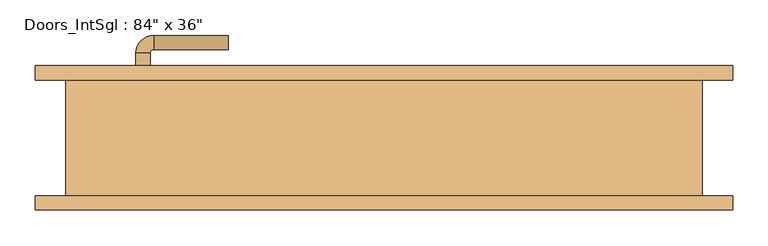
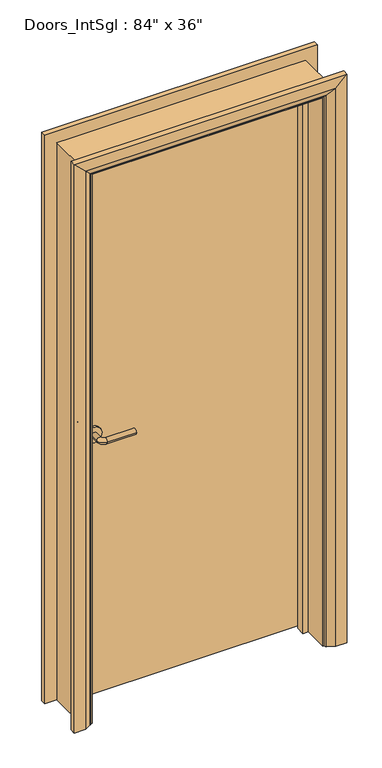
"""IFC4 building model written with IfcOpenShell, lengths in millimetres: door geometry."""

from ifc_helpers import new_model, si_unit, point, frame, frame_2d, origin, place, context, project, spatial, polyline, circle_curve, ellipse_curve, trimmed, segment, composite_curve, outline, extrude, faceted_brep, source, transform, mapped, element, save
from ifc_brep_helpers import plane_surface, cylinder_surface, revolved_surface, advanced_brep


def door_8a9fed3c(model_context):
    return source(origin(), model_context, "Body", "SolidModel", [
        advanced_brep(
        [(-350.2, 36.0, 1000.0), (-330.2, 36.0, 1000.0), (-330.2, 6.0, 1000.0), (-350.2, 6.0, 1000.0), (-325.2, 1.0, 1000.0), (-325.2, -19.0, 1000.0), (-220.2, -19.0, 1000.0), (-220.2, 1.0, 1000.0)],
        [
            (0, 1, circle_curve(frame((-340.2, 36.0, 1000.0), z_axis=(0.0, 1.0, 0.0), x_axis=(1.0, 0.0, 0.0)), 10.0)),
            (1, 0, circle_curve(frame((-340.2, 36.0, 1000.0), z_axis=(0.0, 1.0, 0.0), x_axis=(1.0, 0.0, 0.0)), 10.0)),
            (1, 2),
            (2, 3, circle_curve(frame((-340.2, 6.0, 1000.0), z_axis=(0.0, 1.0, 0.0), x_axis=(1.0, 0.0, 0.0)), 10.0)),
            (3, 0),
            (3, 2, circle_curve(frame((-340.2, 6.0, 1000.0), z_axis=(0.0, 1.0, 0.0), x_axis=(1.0, 0.0, 0.0)), 10.0)),
            (4, 5, circle_curve(frame((-325.2, -9.0, 1000.0), z_axis=(-1.0, 0.0, 0.0), x_axis=(0.0, 1.0, 0.0)), 10.0)),
            (5, 3, circle_curve(frame((-325.2, 6.0, 1000.0), z_axis=(0.0, 0.0, -1.0), x_axis=(-1.0, 0.0, 0.0)), 25.0)),
            (2, 4, circle_curve(frame((-325.2, 6.0, 1000.0), z_axis=(0.0, 0.0, 1.0), x_axis=(-1.0, 0.0, 0.0)), 5.0)),
            (5, 4, circle_curve(frame((-325.2, -9.0, 1000.0), z_axis=(-1.0, 0.0, 0.0), x_axis=(0.0, 1.0, 0.0)), 10.0)),
            (6, 7, circle_curve(frame((-220.2, -9.0, 1000.0), z_axis=(1.0, 0.0, 0.0), x_axis=(0.0, 1.0, 0.0)), 10.0)),
            (7, 6, circle_curve(frame((-220.2, -9.0, 1000.0), z_axis=(1.0, 0.0, 0.0), x_axis=(0.0, 1.0, 0.0)), 10.0)),
            (4, 7),
            (6, 5),
        ],
        [
            plane_surface(frame((-340.2, 36.0, 1000.0), z_axis=(0.0, 1.0, 0.0), x_axis=(0.0, 0.0, 1.0))),
            cylinder_surface(frame((-340.2, 36.0, 1000.0), z_axis=(0.0, 1.0, 0.0), x_axis=(1.0, 0.0, 0.0)), 10.0),
            revolved_surface(trimmed(ellipse_curve(frame((-340.2, 6.0, 1000.0), z_axis=(0.0, -1.0, 0.0), x_axis=(1.0, 0.0, 0.0)), 10.0, 10.0), [point((-350.2, 6.0, 1000.0))], [point((-330.2, 6.0, 1000.0))], True, "CARTESIAN"), (-325.2, 6.0, 1000.0), (0.0, 0.0, -1.0)),
            revolved_surface(trimmed(ellipse_curve(frame((-340.2, 6.0, 1000.0), z_axis=(0.0, -1.0, 0.0), x_axis=(1.0, 0.0, 0.0)), 10.0, 10.0), [point((-330.2, 6.0, 1000.0))], [point((-350.2, 6.0, 1000.0))], True, "CARTESIAN"), (-325.2, 6.0, 1000.0), (0.0, 0.0, -1.0)),
            plane_surface(frame((-220.2, -9.0, 1000.0), z_axis=(1.0, 0.0, 0.0), x_axis=(0.0, 0.0, 1.0))),
            cylinder_surface(frame((-325.2, -9.0, 1000.0), z_axis=(-1.0, 0.0, 0.0), x_axis=(0.0, 1.0, 0.0)), 10.0),
        ],
        [
            (0, [[1, 2]]),
            (1, [[3, 4, 5, -2]]),
            (1, [[-5, 6, -3, -1]]),
            (2, [[7, 8, -4, 9]]),
            (3, [[10, -9, -6, -8]]),
            (4, [[11, 12]]),
            (5, [[13, -11, 14, -7]]),
            (5, [[-14, -12, -13, -10]]),
        ],
    ),
        extrude(outline(composite_curve([segment(trimmed(circle_curve(frame_2d((1000.0, -342.7)), 30.0), [point((1000.0, -372.7))], [point((1000.0, -312.7))], False, "CARTESIAN"), True, "CONTINUOUS"), segment(trimmed(circle_curve(frame_2d((1000.0, -342.7)), 30.0), [point((1000.0, -312.7))], [point((1000.0, -372.7))], False, "CARTESIAN"), True, "CONTINUOUS")], self_intersect=False)), frame((0.0, 36.0, 0.0), z_axis=(0.0, 1.0, 0.0), x_axis=(0.0, 0.0, 1.0)), (0.0, 0.0, 1.0), 8.0),
        advanced_brep(
        [(-350.2, 90.0, 1000.0), (-330.2, 90.0, 1000.0), (-350.2, 120.0, 1000.0), (-330.2, 120.0, 1000.0), (-325.2, 125.0, 1000.0), (-325.2, 145.0, 1000.0), (-220.2, 145.0, 1000.0), (-220.2, 125.0, 1000.0)],
        [
            (0, 1, circle_curve(frame((-340.2, 90.0, 1000.0), z_axis=(0.0, -1.0, 0.0), x_axis=(1.0, 0.0, 0.0)), 10.0)),
            (1, 0, circle_curve(frame((-340.2, 90.0, 1000.0), z_axis=(0.0, -1.0, 0.0), x_axis=(1.0, 0.0, 0.0)), 10.0)),
            (0, 2),
            (2, 3, circle_curve(frame((-340.2, 120.0, 1000.0), z_axis=(0.0, -1.0, 0.0), x_axis=(1.0, 0.0, 0.0)), 10.0)),
            (3, 1),
            (3, 2, circle_curve(frame((-340.2, 120.0, 1000.0), z_axis=(0.0, -1.0, 0.0), x_axis=(1.0, 0.0, 0.0)), 10.0)),
            (4, 3, circle_curve(frame((-325.2, 120.0, 1000.0), z_axis=(0.0, 0.0, 1.0), x_axis=(-1.0, 0.0, 0.0)), 5.0)),
            (2, 5, circle_curve(frame((-325.2, 120.0, 1000.0), z_axis=(0.0, 0.0, -1.0), x_axis=(-1.0, 0.0, 0.0)), 25.0)),
            (5, 4, circle_curve(frame((-325.2, 135.0, 1000.0), z_axis=(-1.0, 0.0, 0.0), x_axis=(0.0, -1.0, 0.0)), 10.0)),
            (4, 5, circle_curve(frame((-325.2, 135.0, 1000.0), z_axis=(-1.0, 0.0, 0.0), x_axis=(0.0, -1.0, 0.0)), 10.0)),
            (6, 7, circle_curve(frame((-220.2, 135.0, 1000.0), z_axis=(1.0, 0.0, 0.0), x_axis=(0.0, -1.0, 0.0)), 10.0)),
            (7, 6, circle_curve(frame((-220.2, 135.0, 1000.0), z_axis=(1.0, 0.0, 0.0), x_axis=(0.0, -1.0, 0.0)), 10.0)),
            (5, 6),
            (7, 4),
        ],
        [
            plane_surface(frame((-340.2, 90.0, 1000.0), z_axis=(0.0, -1.0, 0.0), x_axis=(0.0, 0.0, 1.0))),
            cylinder_surface(frame((-340.2, 90.0, 1000.0), z_axis=(0.0, -1.0, 0.0), x_axis=(1.0, 0.0, 0.0)), 10.0),
            revolved_surface(trimmed(ellipse_curve(frame((-340.2, 120.0, 1000.0), z_axis=(0.0, -1.0, 0.0), x_axis=(1.0, 0.0, 0.0)), 10.0, 10.0), [point((-350.2, 120.0, 1000.0))], [point((-330.2, 120.0, 1000.0))], True, "CARTESIAN"), (-325.2, 120.0, 1000.0), (0.0, 0.0, -1.0)),
            revolved_surface(trimmed(ellipse_curve(frame((-340.2, 120.0, 1000.0), z_axis=(0.0, -1.0, 0.0), x_axis=(1.0, 0.0, 0.0)), 10.0, 10.0), [point((-330.2, 120.0, 1000.0))], [point((-350.2, 120.0, 1000.0))], True, "CARTESIAN"), (-325.2, 120.0, 1000.0), (0.0, 0.0, -1.0)),
            plane_surface(frame((-220.2, 135.0, 1000.0), z_axis=(1.0, 0.0, 0.0), x_axis=(0.0, 0.0, 1.0))),
            cylinder_surface(frame((-325.2, 135.0, 1000.0), z_axis=(-1.0, 0.0, 0.0), x_axis=(0.0, -1.0, 0.0)), 10.0),
        ],
        [
            (0, [[1, 2]]),
            (1, [[-1, 3, 4, 5]]),
            (1, [[-2, -5, 6, -3]]),
            (2, [[7, -4, 8, 9]]),
            (3, [[-8, -6, -7, 10]]),
            (4, [[11, 12]]),
            (5, [[-9, 13, -12, 14]]),
            (5, [[-10, -14, -11, -13]]),
        ],
    ),
        extrude(outline(composite_curve([segment(trimmed(circle_curve(frame_2d((1000.0, -342.7)), 30.0), [point((1000.0, -372.7))], [point((1000.0, -312.7))], False, "CARTESIAN"), True, "CONTINUOUS"), segment(trimmed(circle_curve(frame_2d((1000.0, -342.7)), 30.0), [point((1000.0, -312.7))], [point((1000.0, -372.7))], False, "CARTESIAN"), True, "CONTINUOUS")], self_intersect=False)), frame((0.0, 82.0, 0.0), z_axis=(0.0, 1.0, 0.0), x_axis=(0.0, 0.0, 1.0)), (0.0, 0.0, 1.0), 8.0),
        extrude(outline(polyline([(415.2, 44.0), (-415.2, 44.0), (-415.2, 82.0), (415.2, 82.0), (415.2, 44.0)])), frame((0.0, 0.0, 8.0), z_axis=(0.0, 0.0, 1.0), x_axis=(1.0, 0.0, 0.0)), (0.0, 0.0, 1.0), 2083.6),
        advanced_brep(
        [(492.2, 102.0, 0.0), (492.2, 82.0, 0.0), (422.2, 82.0, 0.0), (426.2, 88.0, 0.0), (452.2, 102.0, 0.0), (492.2, 102.0, 2168.6), (492.2, 82.0, 2168.6), (-492.2, 82.0, 2168.6), (-492.2, 82.0, 0.0), (-422.2, 82.0, 0.0), (-422.2, 82.0, 2098.6), (422.2, 82.0, 2098.6), (426.2, 88.0, 2102.6), (452.2, 102.0, 2128.6), (-452.2, 102.0, 2128.6), (-452.2, 102.0, 0.0), (-492.2, 102.0, 0.0), (-492.2, 102.0, 2168.6), (-426.2, 88.0, 0.0), (-426.2, 88.0, 2102.6)],
        [
            (0, 1),
            (1, 2),
            (2, 3, circle_curve(frame((430.2, 81.0, 0.0), z_axis=(0.0, 0.0, -1.0), x_axis=(1.0, 0.0, 0.0)), 8.0622577)),
            (3, 4),
            (4, 0),
            (0, 5),
            (5, 6),
            (6, 1),
            (6, 7),
            (7, 8),
            (8, 9),
            (9, 10),
            (10, 11),
            (11, 2),
            (11, 12, ellipse_curve(frame((430.2, 81.0, 2106.6), z_axis=(0.7071067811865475, 0.0, -0.7071067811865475), x_axis=(-0.7071067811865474, 0.0, -0.7071067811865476)), 11.4017543, 8.0622577)),
            (12, 3),
            (12, 13),
            (13, 4),
            (13, 14),
            (14, 15),
            (15, 16),
            (16, 17),
            (17, 5),
            (7, 17),
            (16, 8),
            (15, 18),
            (18, 9, circle_curve(frame((-430.2, 81.0, 0.0), z_axis=(0.0, 0.0, -1.0), x_axis=(-1.0, 0.0, 0.0)), 8.0622577)),
            (19, 10, ellipse_curve(frame((-430.2, 81.0, 2106.6), z_axis=(-0.7071067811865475, 0.0, -0.7071067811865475), x_axis=(-0.7071067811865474, 0.0, 0.7071067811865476)), 11.4017543, 8.0622577)),
            (18, 19),
            (14, 19),
            (19, 12),
        ],
        [
            plane_surface(frame((422.2, 82.0, 0.0), z_axis=(0.0, 0.0, -1.0), x_axis=(0.0, -1.0, 0.0))),
            plane_surface(frame((492.2, 102.0, 0.0), z_axis=(1.0, 0.0, 0.0), x_axis=(0.0, 0.0, 1.0))),
            plane_surface(frame((492.2, 82.0, 0.0), z_axis=(0.0, -1.0, 0.0), x_axis=(0.0, 0.0, 1.0))),
            cylinder_surface(frame((430.2, 81.0, 0.0), z_axis=(0.0, 0.0, -1.0), x_axis=(1.0, 0.0, 0.0)), 8.0622577),
            plane_surface(frame((426.2, 88.0, 0.0), z_axis=(-0.4740998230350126, 0.880471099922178, 0.0), x_axis=(0.0, 0.0, 1.0))),
            plane_surface(frame((452.2, 102.0, 0.0), z_axis=(0.0, 1.0, 0.0), x_axis=(0.0, 0.0, 1.0))),
            plane_surface(frame((-492.2, 102.0, 2168.6), z_axis=(-1.0, 0.0, 0.0), x_axis=(0.0, 0.0, -1.0))),
            plane_surface(frame((-422.2, 82.0, 0.0), z_axis=(0.0, 0.0, -1.0), x_axis=(0.0, -1.0, 0.0))),
            cylinder_surface(frame((-430.2, 81.0, 2098.6), z_axis=(0.0, 0.0, 1.0), x_axis=(-1.0, 0.0, 0.0)), 8.0622577),
            plane_surface(frame((-426.2, 88.0, 2102.6), z_axis=(0.47409982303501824, 0.8804710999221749, 0.0), x_axis=(0.0, 0.0, -1.0))),
            plane_surface(frame((492.2, 102.0, 2168.6), z_axis=(0.0, 0.0, 1.0), x_axis=(-1.0, 0.0, 0.0))),
            cylinder_surface(frame((422.2, 81.0, 2106.6), z_axis=(1.0, 0.0, 0.0), x_axis=(0.0, 0.0, 1.0)), 8.0622577),
            plane_surface(frame((426.2, 88.0, 2102.6), z_axis=(0.0, 0.8804710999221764, -0.4740998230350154), x_axis=(-1.0, 0.0, 0.0))),
        ],
        [
            (0, [[1, 2, 3, 4, 5]]),
            (1, [[-1, 6, 7, 8]]),
            (2, [[-2, -8, 9, 10, 11, 12, 13, 14]]),
            (3, [[-3, -14, 15, 16]]),
            (4, [[-4, -16, 17, 18]]),
            (5, [[-5, -18, 19, 20, 21, 22, 23, -6]]),
            (6, [[24, -22, 25, -10]]),
            (7, [[-21, 26, 27, -11, -25]]),
            (8, [[28, -12, -27, 29]]),
            (9, [[30, -29, -26, -20]]),
            (10, [[-7, -23, -24, -9]]),
            (11, [[-15, -13, -28, 31]]),
            (12, [[-17, -31, -30, -19]]),
        ],
    ),
        extrude(outline(polyline([(0.0, -417.2), (0.0, -398.2), (2074.6, -398.2), (2074.6, 398.2), (0.0, 398.2), (0.0, 417.2), (2093.6, 417.2), (2093.6, -417.2), (0.0, -417.2)])), frame((0.0, 10.0, 0.0), z_axis=(0.0, 1.0, 0.0), x_axis=(0.0, 0.0, 1.0)), (0.0, 0.0, 1.0), 32.0),
        advanced_brep(
        [(-492.2, -102.0, 0.0), (-492.2, -82.0, 0.0), (-422.2, -82.0, 0.0), (-426.2, -88.0, 0.0), (-452.2, -102.0, 0.0), (-492.2, -102.0, 2168.6), (-492.2, -82.0, 2168.6), (-422.2, -82.0, 2098.6), (-426.2, -88.0, 2102.6), (-452.2, -102.0, 2128.6), (492.2, -102.0, 0.0), (452.2, -102.0, 0.0), (426.2, -88.0, 0.0), (422.2, -82.0, 0.0), (492.2, -82.0, 0.0), (492.2, -102.0, 2168.6), (452.2, -102.0, 2128.6), (426.2, -88.0, 2102.6), (422.2, -82.0, 2098.6), (492.2, -82.0, 2168.6)],
        [
            (0, 1),
            (1, 2),
            (2, 3, circle_curve(frame((-430.2, -81.0, 0.0), z_axis=(0.0, 0.0, -1.0), x_axis=(-1.0, 0.0, 0.0)), 8.0622577)),
            (3, 4),
            (4, 0),
            (0, 5),
            (5, 6),
            (6, 1),
            (6, 7),
            (7, 2),
            (7, 8, ellipse_curve(frame((-430.2, -81.0, 2106.6), z_axis=(-0.7071067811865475, 0.0, -0.7071067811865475), x_axis=(0.7071067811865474, 0.0, -0.7071067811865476)), 11.4017543, 8.0622577)),
            (8, 3),
            (8, 9),
            (9, 4),
            (9, 5),
            (10, 11),
            (11, 12),
            (12, 13, circle_curve(frame((430.2, -81.0, 0.0), z_axis=(0.0, 0.0, -1.0), x_axis=(1.0, 0.0, 0.0)), 8.0622577)),
            (13, 14),
            (14, 10),
            (15, 16),
            (16, 11),
            (10, 15),
            (16, 17),
            (17, 12),
            (17, 18, ellipse_curve(frame((430.2, -81.0, 2106.6), z_axis=(0.7071067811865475, 0.0, -0.7071067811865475), x_axis=(0.7071067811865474, 0.0, 0.7071067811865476)), 11.4017543, 8.0622577)),
            (18, 13),
            (18, 19),
            (19, 14),
            (19, 15),
            (5, 15),
            (19, 6),
            (18, 7),
            (17, 8),
            (16, 9),
        ],
        [
            plane_surface(frame((-422.2, -154.8010989, 0.0), z_axis=(0.0, 0.0, -1.0), x_axis=(1.0, 0.0, 0.0))),
            plane_surface(frame((-492.2, -102.0, 0.0), z_axis=(-1.0, 0.0, 0.0), x_axis=(0.0, 0.0, 1.0))),
            plane_surface(frame((-492.2, -82.0, 0.0), z_axis=(0.0, 1.0, 0.0), x_axis=(0.0, 0.0, 1.0))),
            cylinder_surface(frame((-430.2, -81.0, 0.0), z_axis=(0.0, 0.0, -1.0), x_axis=(-1.0, 0.0, 0.0)), 8.0622577),
            plane_surface(frame((-426.2, -88.0, 0.0), z_axis=(0.4740998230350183, -0.8804710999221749, 0.0), x_axis=(0.0, 0.0, 1.0))),
            plane_surface(frame((-452.2, -102.0, 0.0), z_axis=(0.0, -1.0, 0.0), x_axis=(0.0, 0.0, 1.0))),
            plane_surface(frame((422.2, -154.8010989, 0.0), z_axis=(0.0, 0.0, -1.0), x_axis=(-1.0, 0.0, 0.0))),
            plane_surface(frame((452.2, -102.0, 2128.6), z_axis=(0.0, -1.0, 0.0), x_axis=(0.0, 0.0, -1.0))),
            plane_surface(frame((426.2, -88.0, 2102.6), z_axis=(-0.4740998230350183, -0.8804710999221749, 0.0), x_axis=(0.0, 0.0, -1.0))),
            cylinder_surface(frame((430.2, -81.0, 2098.6), z_axis=(0.0, 0.0, 1.0), x_axis=(1.0, 0.0, 0.0)), 8.0622577),
            plane_surface(frame((492.2, -82.0, 2168.6), z_axis=(0.0, 1.0, 0.0), x_axis=(0.0, 0.0, -1.0))),
            plane_surface(frame((492.2, -102.0, 2168.6), z_axis=(1.0, 0.0, 0.0), x_axis=(0.0, 0.0, -1.0))),
            plane_surface(frame((-492.2, -102.0, 2168.6), z_axis=(0.0, 0.0, 1.0), x_axis=(1.0, 0.0, 0.0))),
            plane_surface(frame((-492.2, -82.0, 2168.6), z_axis=(0.0, 1.0, 0.0), x_axis=(1.0, 0.0, 0.0))),
            cylinder_surface(frame((-422.2, -81.0, 2106.6), z_axis=(-1.0, 0.0, 0.0), x_axis=(0.0, 0.0, 1.0)), 8.0622577),
            plane_surface(frame((-426.2, -88.0, 2102.6), z_axis=(0.0, -0.8804710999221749, -0.4740998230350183), x_axis=(1.0, 0.0, 0.0))),
            plane_surface(frame((-452.2, -102.0, 2128.6), z_axis=(0.0, -1.0, 0.0), x_axis=(1.0, 0.0, 0.0))),
        ],
        [
            (0, [[1, 2, 3, 4, 5]]),
            (1, [[-1, 6, 7, 8]]),
            (2, [[-2, -8, 9, 10]]),
            (3, [[-3, -10, 11, 12]]),
            (4, [[-4, -12, 13, 14]]),
            (5, [[-5, -14, 15, -6]]),
            (6, [[16, 17, 18, 19, 20]]),
            (7, [[21, 22, -16, 23]]),
            (8, [[24, 25, -17, -22]]),
            (9, [[26, 27, -18, -25]]),
            (10, [[28, 29, -19, -27]]),
            (11, [[30, -23, -20, -29]]),
            (12, [[-7, 31, -30, 32]]),
            (13, [[-9, -32, -28, 33]]),
            (14, [[-11, -33, -26, 34]]),
            (15, [[-13, -34, -24, 35]]),
            (16, [[-15, -35, -21, -31]]),
        ],
    ),
        faceted_brep([(-417.2, 82.0, 0.0), (-417.2, -82.0, 0.0), (-449.2, -82.0, 0.0), (-449.2, 82.0, 0.0), (-417.2, 82.0, 2093.6), (-417.2, -82.0, 2093.6), (-449.2, -82.0, 2125.6), (-449.2, 82.0, 2125.6), (417.2, 82.0, 0.0), (449.2, 82.0, 0.0), (449.2, -82.0, 0.0), (417.2, -82.0, 0.0), (417.2, 82.0, 2093.6), (449.2, 82.0, 2125.6), (449.2, -82.0, 2125.6), (417.2, -82.0, 2093.6)], [[[0, 1, 2, 3]], [[1, 0, 4, 5]], [[2, 1, 5, 6]], [[3, 2, 6, 7]], [[0, 3, 7, 4]], [[8, 9, 10, 11]], [[12, 13, 9, 8]], [[13, 14, 10, 9]], [[14, 15, 11, 10]], [[15, 12, 8, 11]], [[5, 4, 12, 15]], [[6, 5, 15, 14]], [[7, 6, 14, 13]], [[4, 7, 13, 12]]]),
    ])


if __name__ == "__main__":
    model = new_model("IFC4")
    model_context = context("Model", 3, world=origin())
    ifc_project = project(units=[si_unit("LENGTHUNIT", "METRE", prefix="MILLI")], contexts=[model_context])
    site = spatial("IfcSite", under=ifc_project)
    building = spatial("IfcBuilding", under=site)
    placement = place(None, origin())
    door_shape = door_8a9fed3c(model_context)
    element("IfcDoor", 1, ObjectType="Doors_IntSgl : 84\" x 36\"", at=placement, inside=building, context=model_context, shape_type="MappedRepresentation", body=[
        mapped(door_shape, transform((0.0, 0.0, 0.0), x_axis=(1.0, 0.0, 0.0), y_axis=(0.0, 1.0, 0.0), z_axis=(0.0, 0.0, 1.0))),
    ])
    save(model, "model.ifc")
